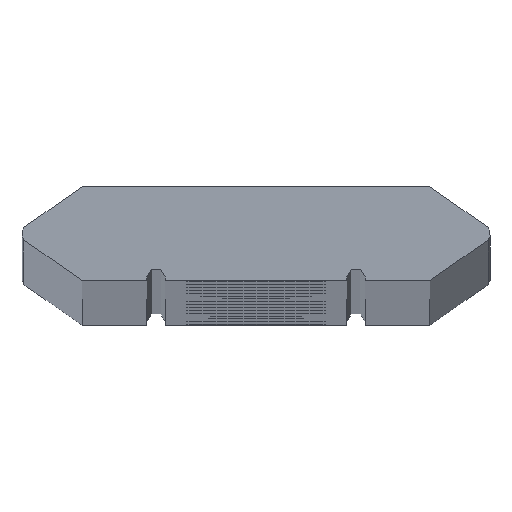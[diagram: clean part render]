
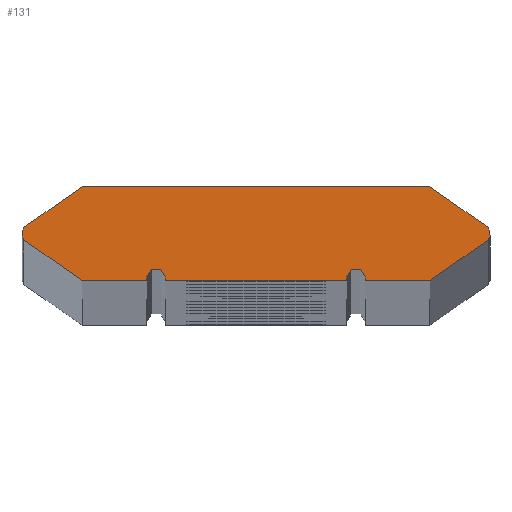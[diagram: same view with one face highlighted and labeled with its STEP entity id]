
A CAD part, top view. The second image highlights one B-rep face of the part: STEP entity #131.
In plain terms, the highlighted planar face has unit normal (0, 0, 1).
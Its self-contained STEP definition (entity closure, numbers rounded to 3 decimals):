
#131=ADVANCED_FACE('',(#333),#334,.T.);
#333=FACE_OUTER_BOUND('',#545,.T.);
#334=PLANE('',#546);
#545=EDGE_LOOP('',(#896,#897,#898,#899,#900,#901,#902,#903,#904,#905,#906,#907,#908,#909,#910,#911));
#546=AXIS2_PLACEMENT_3D('',#912,#913,#914);
#896=ORIENTED_EDGE('',*,*,#1046,.T.);
#897=ORIENTED_EDGE('',*,*,#1043,.T.);
#898=ORIENTED_EDGE('',*,*,#1040,.T.);
#899=ORIENTED_EDGE('',*,*,#1037,.T.);
#900=ORIENTED_EDGE('',*,*,#1034,.T.);
#901=ORIENTED_EDGE('',*,*,#1031,.T.);
#902=ORIENTED_EDGE('',*,*,#1009,.T.);
#903=ORIENTED_EDGE('',*,*,#1080,.T.);
#904=ORIENTED_EDGE('',*,*,#1081,.T.);
#905=ORIENTED_EDGE('',*,*,#1082,.T.);
#906=ORIENTED_EDGE('',*,*,#1083,.T.);
#907=ORIENTED_EDGE('',*,*,#1084,.T.);
#908=ORIENTED_EDGE('',*,*,#1085,.T.);
#909=ORIENTED_EDGE('',*,*,#1086,.T.);
#910=ORIENTED_EDGE('',*,*,#1028,.T.);
#911=ORIENTED_EDGE('',*,*,#1079,.T.);
#912=CARTESIAN_POINT('',(-12.33,0.,0.0));
#913=DIRECTION('',(0.0,0.0,1.0));
#914=DIRECTION('',(-0.574,-0.819,0.0));
#1009=EDGE_CURVE('',#1143,#1141,#1144,.T.);
#1028=EDGE_CURVE('',#1181,#1179,#1182,.T.);
#1031=EDGE_CURVE('',#1186,#1143,#1187,.T.);
#1034=EDGE_CURVE('',#1191,#1186,#1192,.T.);
#1037=EDGE_CURVE('',#1196,#1191,#1197,.T.);
#1040=EDGE_CURVE('',#1201,#1196,#1202,.T.);
#1043=EDGE_CURVE('',#1206,#1201,#1207,.T.);
#1046=EDGE_CURVE('',#1211,#1206,#1212,.T.);
#1079=EDGE_CURVE('',#1179,#1211,#1275,.T.);
#1080=EDGE_CURVE('',#1141,#1276,#1277,.T.);
#1081=EDGE_CURVE('',#1276,#1278,#1279,.T.);
#1082=EDGE_CURVE('',#1278,#1280,#1281,.T.);
#1083=EDGE_CURVE('',#1280,#1282,#1283,.T.);
#1084=EDGE_CURVE('',#1282,#1284,#1285,.T.);
#1085=EDGE_CURVE('',#1284,#1286,#1287,.T.);
#1086=EDGE_CURVE('',#1286,#1181,#1288,.T.);
#1141=VERTEX_POINT('',#1350);
#1143=VERTEX_POINT('',#1353);
#1144=LINE('',#1354,#1355);
#1179=VERTEX_POINT('',#1392);
#1181=VERTEX_POINT('',#1395);
#1182=LINE('',#1396,#1397);
#1186=VERTEX_POINT('',#1403);
#1187=LINE('',#1404,#1405);
#1191=VERTEX_POINT('',#1410);
#1192=CIRCLE('',#1411,0.5);
#1196=VERTEX_POINT('',#1417);
#1197=LINE('',#1418,#1419);
#1201=VERTEX_POINT('',#1425);
#1202=LINE('',#1426,#1427);
#1206=VERTEX_POINT('',#1433);
#1207=LINE('',#1434,#1435);
#1211=VERTEX_POINT('',#1440);
#1212=CIRCLE('',#1441,0.56);
#1275=LINE('',#1506,#1507);
#1276=VERTEX_POINT('',#1508);
#1277=LINE('',#1509,#1510);
#1278=VERTEX_POINT('',#1511);
#1279=CIRCLE('',#1512,0.5);
#1280=VERTEX_POINT('',#1513);
#1281=LINE('',#1514,#1515);
#1282=VERTEX_POINT('',#1516);
#1283=LINE('',#1517,#1518);
#1284=VERTEX_POINT('',#1519);
#1285=LINE('',#1520,#1521);
#1286=VERTEX_POINT('',#1522);
#1287=CIRCLE('',#1523,0.56);
#1288=LINE('',#1524,#1525);
#1350=CARTESIAN_POINT('',(5.,-2.59,0.0));
#1353=CARTESIAN_POINT('',(-5.,-2.59,0.0));
#1354=CARTESIAN_POINT('',(-5.,-2.59,0.0));
#1355=VECTOR('',#1615,1.0);
#1392=CARTESIAN_POINT('',(-9.561,2.59,0.0));
#1395=CARTESIAN_POINT('',(9.561,2.59,0.0));
#1396=CARTESIAN_POINT('',(9.561,2.59,0.0));
#1397=VECTOR('',#1664,1.0);
#1403=CARTESIAN_POINT('',(-5.,-2.385,0.0));
#1404=CARTESIAN_POINT('',(-5.,-2.385,0.0));
#1405=VECTOR('',#1667,1.0);
#1410=CARTESIAN_POINT('',(-6.,-2.385,0.0));
#1411=AXIS2_PLACEMENT_3D('',#1672,#1673,#1674);
#1417=CARTESIAN_POINT('',(-6.,-2.59,0.0));
#1418=CARTESIAN_POINT('',(-6.,-2.59,0.0));
#1419=VECTOR('',#1677,1.0);
#1425=CARTESIAN_POINT('',(-9.561,-2.59,0.0));
#1426=CARTESIAN_POINT('',(-9.561,-2.59,0.0));
#1427=VECTOR('',#1680,1.0);
#1433=CARTESIAN_POINT('',(-12.776,-0.339,0.0));
#1434=CARTESIAN_POINT('',(-12.776,-0.339,0.0));
#1435=VECTOR('',#1683,1.0);
#1440=CARTESIAN_POINT('',(-12.776,0.339,0.0));
#1441=AXIS2_PLACEMENT_3D('',#1688,#1689,#1690);
#1506=CARTESIAN_POINT('',(-9.561,2.59,0.0));
#1507=VECTOR('',#1783,1.0);
#1508=CARTESIAN_POINT('',(5.,-2.385,0.0));
#1509=CARTESIAN_POINT('',(5.,-2.59,0.0));
#1510=VECTOR('',#1784,1.0);
#1511=CARTESIAN_POINT('',(6.0,-2.385,0.0));
#1512=AXIS2_PLACEMENT_3D('',#1785,#1786,#1787);
#1513=CARTESIAN_POINT('',(6.,-2.59,0.0));
#1514=CARTESIAN_POINT('',(6.,-2.385,0.0));
#1515=VECTOR('',#1788,1.0);
#1516=CARTESIAN_POINT('',(9.561,-2.59,0.0));
#1517=CARTESIAN_POINT('',(6.,-2.59,0.0));
#1518=VECTOR('',#1789,1.0);
#1519=CARTESIAN_POINT('',(12.776,-0.339,0.0));
#1520=CARTESIAN_POINT('',(9.561,-2.59,0.0));
#1521=VECTOR('',#1790,1.0);
#1522=CARTESIAN_POINT('',(12.776,0.339,0.0));
#1523=AXIS2_PLACEMENT_3D('',#1791,#1792,#1793);
#1524=CARTESIAN_POINT('',(12.776,0.339,0.0));
#1525=VECTOR('',#1794,1.0);
#1615=DIRECTION('',(1.0,0.,0.0));
#1664=DIRECTION('',(-1.0,0.,0.0));
#1667=DIRECTION('',(0.,-1.,0.0));
#1672=CARTESIAN_POINT('',(-5.5,-2.385,0.0));
#1673=DIRECTION('',(-0.0,0.0,-1.0));
#1674=DIRECTION('',(0.,-1.0,0.0));
#1677=DIRECTION('',(0.,1.0,0.0));
#1680=DIRECTION('',(1.0,0.,0.0));
#1683=DIRECTION('',(0.819,-0.574,0.0));
#1688=CARTESIAN_POINT('',(-12.33,0.,0.0));
#1689=DIRECTION('',(0.0,0.0,1.0));
#1690=DIRECTION('',(0.,-1.0,0.0));
#1783=DIRECTION('',(-0.819,-0.574,0.0));
#1784=DIRECTION('',(0.,1.0,0.0));
#1785=CARTESIAN_POINT('',(5.5,-2.385,0.0));
#1786=DIRECTION('',(0.0,0.0,-1.0));
#1787=DIRECTION('',(0.,-1.0,0.0));
#1788=DIRECTION('',(0.,-1.0,0.0));
#1789=DIRECTION('',(1.0,0.,0.0));
#1790=DIRECTION('',(0.819,0.574,0.0));
#1791=CARTESIAN_POINT('',(12.33,0.,0.0));
#1792=DIRECTION('',(0.0,0.0,1.0));
#1793=DIRECTION('',(0.,-1.0,0.0));
#1794=DIRECTION('',(-0.819,0.574,0.0));
